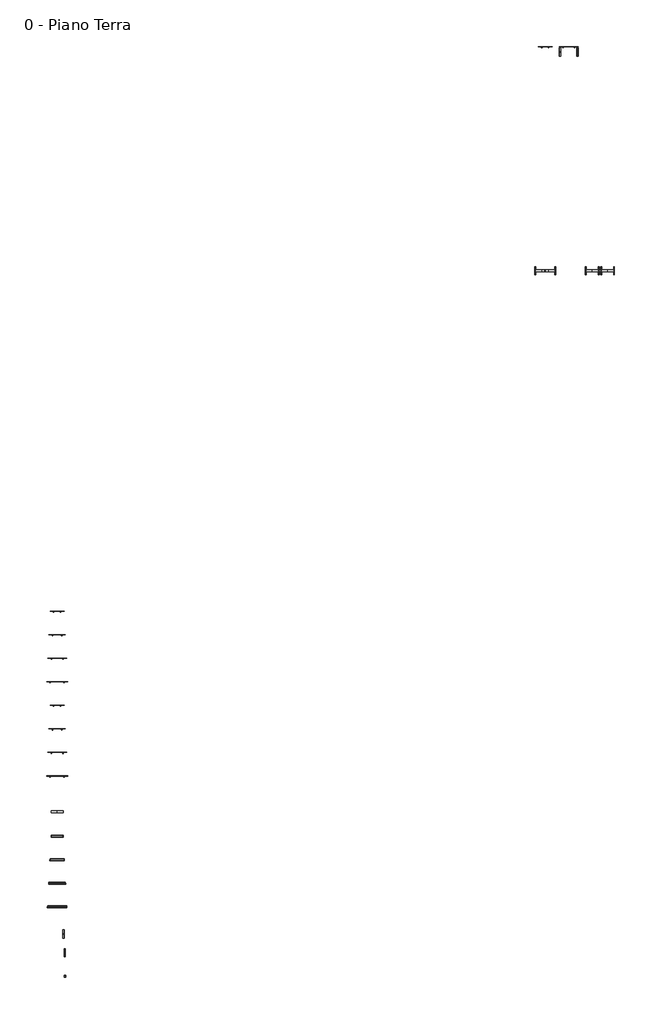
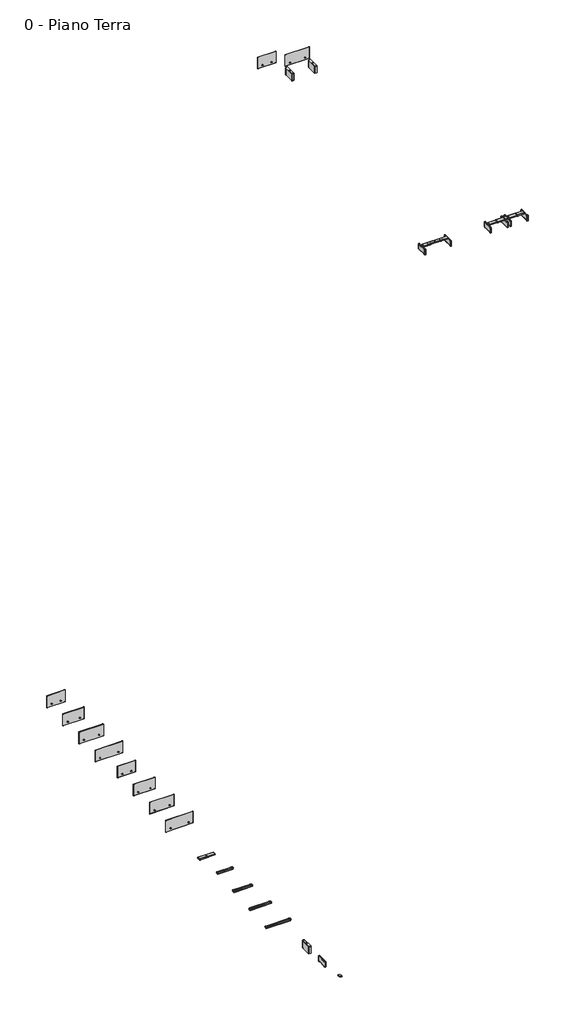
# One storey, incomplete: 30 furniture elements.
"""IFC4 building model written with IfcOpenShell, lengths in millimetres."""

from ifc_helpers import new_model, si_unit, origin, place, context, project, spatial, transform, mapped, element, save
from components import furniture_7627fab7, furniture_67f6b5ff, furniture_d0544c74, furniture_b54c54c6, furniture_ec0e8264, furniture_4f8d3af2, furniture_74b2fef7, furniture_406bb710, furniture_a0c20fb1, furniture_a2275434, furniture_ed70f8aa, furniture_6a5f57b9, furniture_de1b5e3a, furniture_9ccfb6ce, furniture_7ee9c148, furniture_1b61114b, furniture_a54ab712, furniture_fbaf5bc5, furniture_1280791a, furniture_3cd2dab1

model = new_model("IFC4")

# Units and contexts
model_context = context("Model", 3, world=origin())
ifc_project = project(units=[si_unit("LENGTHUNIT", "METRE", prefix="MILLI")], contexts=[model_context])

# Site, building, storey
site = spatial("IfcSite", under=ifc_project)
building = spatial("IfcBuilding", under=site)
storey = spatial("IfcBuildingStorey", under=building, Name="0 - Piano Terra", Elevation=0.0)

# Furniture
placement = place(None, origin())
furniture_shape = furniture_7627fab7(model_context)
element("IfcFurniture", 1, ObjectType="FREZZA_POP AD_Screen-for desk_Melamine : W1200 mm Structure_ZGBI - Embossed White & Finishing_MBI - White", at=placement, inside=storey, context=model_context, shape_type="MappedRepresentation", body=[
    mapped(furniture_shape, transform((-940.0, -64962.7815507, 0.0), x_axis=(1.0, 0.0, 0.0), y_axis=(0.0, 1.0, 0.0), z_axis=(0.0, 0.0, 1.0))),
])
furniture_2_shape = furniture_67f6b5ff(model_context)
element("IfcFurniture", 2, ObjectType="FREZZA_POP AD_Screen-for desk_Melamine : W1400 mm Structure_ZGBI - Embossed White & Finishing_MBI - White", at=placement, inside=storey, context=model_context, shape_type="MappedRepresentation", body=[
    mapped(furniture_2_shape, transform((-940.0, -66962.7815507, 0.0), x_axis=(1.0, 0.0, 0.0), y_axis=(0.0, 1.0, 0.0), z_axis=(0.0, 0.0, 1.0))),
])
furniture_3_shape = furniture_d0544c74(model_context)
element("IfcFurniture", 3, ObjectType="FREZZA_POP AD_Screen-for desk_Melamine : W1600 mm Structure_ZGBI - Embossed White & Finishing_MBI - White", at=placement, inside=storey, context=model_context, shape_type="MappedRepresentation", body=[
    mapped(furniture_3_shape, transform((-940.0, -68962.7815507, 0.0), x_axis=(1.0, 0.0, 0.0), y_axis=(0.0, 1.0, 0.0), z_axis=(0.0, 0.0, 1.0))),
])
element("IfcFurniture", 4, ObjectType="FREZZA_POP AD_Screen-for desk_Melamine : W1600 mm Structure_ZGBI - Embossed White & Finishing_MBI - White", at=placement, inside=storey, context=model_context, shape_type="MappedRepresentation", body=[
    mapped(furniture_3_shape, transform((42560.0, -8960.5, 0.0), x_axis=(1.0, 0.0, 0.0), y_axis=(0.0, 1.0, 0.0), z_axis=(0.0, 0.0, 1.0))),
])
furniture_4_shape = furniture_b54c54c6(model_context)
element("IfcFurniture", 5, ObjectType="FREZZA_POP AD_Screen-for desk_Melamine : W1800 mm Structure_ZGBI - Embossed White & Finishing_MBI - White", at=placement, inside=storey, context=model_context, shape_type="MappedRepresentation", body=[
    mapped(furniture_4_shape, transform((-940.0, -70962.7815507, 0.0), x_axis=(1.0, 0.0, 0.0), y_axis=(0.0, 1.0, 0.0), z_axis=(0.0, 0.0, 1.0))),
])
furniture_5_shape = furniture_ec0e8264(model_context)
element("IfcFurniture", 6, ObjectType="FREZZA_POP AD_Cable tray_for bench desk : Structure_ZGBI - Embossed White", at=placement, inside=storey, context=model_context, shape_type="MappedRepresentation", body=[
    mapped(furniture_5_shape, transform((-940.0, -73960.5, 0.0), x_axis=(1.0, 0.0, 0.0), y_axis=(0.0, 1.0, 0.0), z_axis=(0.0, 0.0, 1.0))),
])
element("IfcFurniture", 7, ObjectType="FREZZA_POP AD_Cable tray_for bench desk : Structure_ZGBI - Embossed White", at=placement, inside=storey, context=model_context, shape_type="MappedRepresentation", body=[
    mapped(furniture_5_shape, transform((44560.0, -27960.5, 0.0), x_axis=(1.0, 0.0, 0.0), y_axis=(0.0, 1.0, 0.0), z_axis=(0.0, 0.0, 1.0))),
])
element("IfcFurniture", 8, ObjectType="FREZZA_POP AD_Cable tray_for bench desk : Structure_ZGBI - Embossed White", at=placement, inside=storey, context=model_context, shape_type="MappedRepresentation", body=[
    mapped(furniture_5_shape, transform((45860.0, -27960.5, 0.0), x_axis=(1.0, 0.0, 0.0), y_axis=(0.0, 1.0, 0.0), z_axis=(0.0, 0.0, 1.0))),
])
furniture_6_shape = furniture_4f8d3af2(model_context)
element("IfcFurniture", 9, ObjectType="FREZZA_POP AD_Cable tray_for Desk : W1000 mm Structure_ZGBI - Embossed White", at=placement, inside=storey, context=model_context, shape_type="MappedRepresentation", body=[
    mapped(furniture_6_shape, transform((-940.0, -75960.5, 0.0), x_axis=(1.0, 0.0, 0.0), y_axis=(0.0, 1.0, 0.0), z_axis=(0.0, 0.0, 1.0))),
])
furniture_7_shape = furniture_74b2fef7(model_context)
element("IfcFurniture", 10, ObjectType="FREZZA_POP AD_Cable tray_for Desk : W1200 mm Structure_ZGBI - Embossed White", at=placement, inside=storey, context=model_context, shape_type="MappedRepresentation", body=[
    mapped(furniture_7_shape, transform((-940.0, -77960.5, 0.0), x_axis=(1.0, 0.0, 0.0), y_axis=(0.0, 1.0, 0.0), z_axis=(0.0, 0.0, 1.0))),
])
furniture_8_shape = furniture_406bb710(model_context)
element("IfcFurniture", 11, ObjectType="FREZZA_POP AD_Cable tray_for Desk : W1400 mm Structure_ZGBI - Embossed White", at=placement, inside=storey, context=model_context, shape_type="MappedRepresentation", body=[
    mapped(furniture_8_shape, transform((-940.0, -79960.5, 0.0), x_axis=(1.0, 0.0, 0.0), y_axis=(0.0, 1.0, 0.0), z_axis=(0.0, 0.0, 1.0))),
])
furniture_9_shape = furniture_a0c20fb1(model_context)
element("IfcFurniture", 12, ObjectType="FREZZA_POP AD_Cable tray_for Desk : W1600 mm Structure_ZGBI - Embossed White", at=placement, inside=storey, context=model_context, shape_type="MappedRepresentation", body=[
    mapped(furniture_9_shape, transform((-940.0, -81960.5, 0.0), x_axis=(1.0, 0.0, 0.0), y_axis=(0.0, 1.0, 0.0), z_axis=(0.0, 0.0, 1.0))),
])
furniture_10_shape = furniture_a2275434(model_context)
element("IfcFurniture", 13, ObjectType="FREZZA_POP AD_Carter_for desk : Bracket_ZGBI - Embossed White", at=placement, inside=storey, context=model_context, shape_type="MappedRepresentation", body=[
    mapped(furniture_10_shape, transform((-940.0, -83960.5, 0.0), x_axis=(1.0, 0.0, 0.0), y_axis=(0.0, 1.0, 0.0), z_axis=(0.0, 0.0, 1.0))),
])
furniture_11_shape = furniture_ed70f8aa(model_context)
element("IfcFurniture", 14, ObjectType="FREZZA_POP AD_Carter_for bench desk : Bracket_ZGBI - Embossed White", at=placement, inside=storey, context=model_context, shape_type="MappedRepresentation", body=[
    mapped(furniture_11_shape, transform((-940.0, -85960.5, 0.0), x_axis=(1.0, 0.0, 0.0), y_axis=(0.0, 1.0, 0.0), z_axis=(0.0, 0.0, 1.0))),
])
furniture_12_shape = furniture_6a5f57b9(model_context)
element("IfcFurniture", 15, ObjectType="FREZZA_POP AD_Connecting bracket_for bench desk : Bracket_ZGBI - Embossed White", at=placement, inside=storey, context=model_context, shape_type="MappedRepresentation", body=[
    mapped(furniture_12_shape, transform((-940.0, -87960.5, 0.0), x_axis=(1.0, 0.0, 0.0), y_axis=(0.0, 1.0, 0.0), z_axis=(0.0, 0.0, 1.0))),
])
element("IfcFurniture", 16, ObjectType="FREZZA_POP AD_Connecting bracket_for bench desk : Bracket_ZGBI - Embossed White", at=placement, inside=storey, context=model_context, shape_type="MappedRepresentation", body=[
    mapped(furniture_12_shape, transform((44560.0, -27960.0, 0.0), x_axis=(1.0, 0.0, 0.0), y_axis=(0.0, 1.0, 0.0), z_axis=(0.0, 0.0, 1.0))),
])
element("IfcFurniture", 17, ObjectType="FREZZA_POP AD_Screen-for desk_Fabric : W1200 mm Structure_ZGBI - Embossed White & Finishing_D-King flex_XFGC", at=placement, inside=storey, context=model_context, shape_type="MappedRepresentation", body=[
    mapped(furniture_shape, transform((-940.0, -56962.7815507, 0.0), x_axis=(1.0, 0.0, 0.0), y_axis=(0.0, 1.0, 0.0), z_axis=(0.0, 0.0, 1.0))),
])
element("IfcFurniture", 18, ObjectType="FREZZA_POP AD_Screen-for desk_Fabric : W1400 mm Structure_ZGBI - Embossed White & Finishing_D-King flex_XFGC", at=placement, inside=storey, context=model_context, shape_type="MappedRepresentation", body=[
    mapped(furniture_2_shape, transform((-940.0, -58962.7815507, 0.0), x_axis=(1.0, 0.0, 0.0), y_axis=(0.0, 1.0, 0.0), z_axis=(0.0, 0.0, 1.0))),
])
element("IfcFurniture", 19, ObjectType="FREZZA_POP AD_Screen-for desk_Fabric : W1600 mm Structure_ZGBI - Embossed White & Finishing_D-King flex_XFGC", at=placement, inside=storey, context=model_context, shape_type="MappedRepresentation", body=[
    mapped(furniture_3_shape, transform((-940.0, -60962.7815507, 0.0), x_axis=(1.0, 0.0, 0.0), y_axis=(0.0, 1.0, 0.0), z_axis=(0.0, 0.0, 1.0))),
])
element("IfcFurniture", 20, ObjectType="FREZZA_POP AD_Screen-for desk_Fabric : W1800 mm Structure_ZGBI - Embossed White & Finishing_D-King flex_XFGC", at=placement, inside=storey, context=model_context, shape_type="MappedRepresentation", body=[
    mapped(furniture_4_shape, transform((-940.0, -62962.7815507, 0.0), x_axis=(1.0, 0.0, 0.0), y_axis=(0.0, 1.0, 0.0), z_axis=(0.0, 0.0, 1.0))),
])
furniture_13_shape = furniture_de1b5e3a(model_context)
element("IfcFurniture", 21, ObjectType="FREZZA_POP AD_Screen-for desk_Fabric : W1200 mm Structure_ZGBI - Embossed White & Finishing_D-King flex_XFGC", at=placement, inside=storey, context=model_context, shape_type="MappedRepresentation", body=[
    mapped(furniture_13_shape, transform((40560.0, -8960.5, 0.0), x_axis=(1.0, 0.0, 0.0), y_axis=(0.0, 1.0, 0.0), z_axis=(0.0, 0.0, 1.0))),
])
furniture_14_shape = furniture_9ccfb6ce(model_context)
element("IfcFurniture", 22, ObjectType="FREZZA_POP AD_Cable tray_for bench desk : Structure_ZGBI - Embossed White", at=placement, inside=storey, context=model_context, shape_type="MappedRepresentation", body=[
    mapped(furniture_14_shape, transform((40560.0, -27960.5, 0.0), x_axis=(1.0, 0.0, 0.0), y_axis=(0.0, 1.0, 0.0), z_axis=(0.0, 0.0, 1.0))),
])
furniture_15_shape = furniture_7ee9c148(model_context)
element("IfcFurniture", 23, ObjectType="FREZZA_POP AD_Carter_for bench desk : Bracket_ZGBI - Embossed White", at=placement, inside=storey, context=model_context, shape_type="MappedRepresentation", body=[
    mapped(furniture_15_shape, transform((40560.0, -27960.5, 0.0), x_axis=(1.0, 0.0, 0.0), y_axis=(0.0, 1.0, 0.0), z_axis=(0.0, 0.0, 1.0))),
])
furniture_16_shape = furniture_1b61114b(model_context)
element("IfcFurniture", 24, ObjectType="FREZZA_POP AD_Carter_for bench desk : Bracket_ZGBI - Embossed White", at=placement, inside=storey, context=model_context, shape_type="MappedRepresentation", body=[
    mapped(furniture_16_shape, transform((42440.0, -27960.5, 0.0), x_axis=(-1.0, 0.0, 0.0), y_axis=(0.0, -1.0, 0.0), z_axis=(0.0, 0.0, 1.0))),
])
furniture_17_shape = furniture_a54ab712(model_context)
element("IfcFurniture", 25, ObjectType="FREZZA_POP AD_Carter_for bench desk : Bracket_ZGBI - Embossed White", at=placement, inside=storey, context=model_context, shape_type="MappedRepresentation", body=[
    mapped(furniture_17_shape, transform((45860.0, -27960.5, 0.0), x_axis=(1.0, 0.0, 0.0), y_axis=(0.0, 1.0, 0.0), z_axis=(0.0, 0.0, 1.0))),
])
element("IfcFurniture", 26, ObjectType="FREZZA_POP AD_Carter_for bench desk : Bracket_ZGBI - Embossed White", at=placement, inside=storey, context=model_context, shape_type="MappedRepresentation", body=[
    mapped(furniture_17_shape, transform((44560.0, -27960.5, 0.0), x_axis=(1.0, 0.0, 0.0), y_axis=(0.0, 1.0, 0.0), z_axis=(0.0, 0.0, 1.0))),
])
furniture_18_shape = furniture_fbaf5bc5(model_context)
element("IfcFurniture", 27, ObjectType="FREZZA_POP AD_Carter_for bench desk : Bracket_ZGBI - Embossed White", at=placement, inside=storey, context=model_context, shape_type="MappedRepresentation", body=[
    mapped(furniture_18_shape, transform((47740.0, -27960.5, 0.0), x_axis=(-1.0, 0.0, 0.0), y_axis=(0.0, -1.0, 0.0), z_axis=(0.0, 0.0, 1.0))),
])
element("IfcFurniture", 28, ObjectType="FREZZA_POP AD_Carter_for bench desk : Bracket_ZGBI - Embossed White", at=placement, inside=storey, context=model_context, shape_type="MappedRepresentation", body=[
    mapped(furniture_18_shape, transform((46440.0, -27960.5, 0.0), x_axis=(-1.0, 0.0, 0.0), y_axis=(0.0, -1.0, 0.0), z_axis=(0.0, 0.0, 1.0))),
])
furniture_19_shape = furniture_1280791a(model_context)
element("IfcFurniture", 29, ObjectType="FREZZA_POP AD_Carter_for desk : Bracket_ZGBI - Embossed White", at=placement, inside=storey, context=model_context, shape_type="MappedRepresentation", body=[
    mapped(furniture_19_shape, transform((44440.0, -8960.5, 0.0), x_axis=(-1.0, 0.0, 0.0), y_axis=(0.0, -1.0, 0.0), z_axis=(0.0, 0.0, 1.0))),
])
furniture_20_shape = furniture_3cd2dab1(model_context)
element("IfcFurniture", 30, ObjectType="FREZZA_POP AD_Carter_for desk : Bracket_ZGBI - Embossed White", at=placement, inside=storey, context=model_context, shape_type="MappedRepresentation", body=[
    mapped(furniture_20_shape, transform((42560.0, -8960.5, 0.0), x_axis=(1.0, 0.0, 0.0), y_axis=(0.0, 1.0, 0.0), z_axis=(0.0, 0.0, 1.0))),
])

save(model, "model.ifc")
